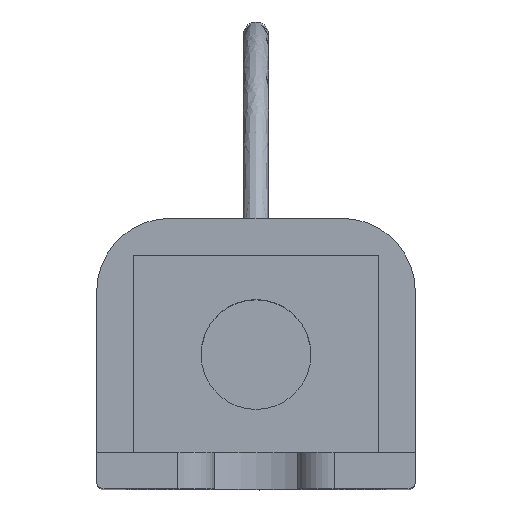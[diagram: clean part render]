
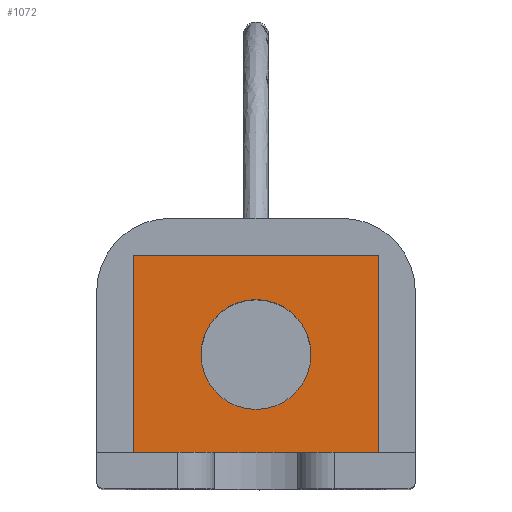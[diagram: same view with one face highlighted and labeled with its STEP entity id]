
A CAD part, top view. The second image highlights one B-rep face of the part: STEP entity #1072.
In plain terms, the highlighted planar face has unit normal (0, 0, 1).
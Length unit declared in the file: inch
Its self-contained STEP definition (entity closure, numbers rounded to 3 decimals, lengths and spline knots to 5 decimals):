
#47 = DIRECTION ( 'NONE',  ( 1., 0., 0. ) ) ;
#56 = ORIENTED_EDGE ( 'NONE', *, *, #1549, .T. ) ;
#137 = CARTESIAN_POINT ( 'NONE',  ( -0.375, 0.925, -4.65 ) ) ;
#219 = FACE_BOUND ( 'NONE', #2538, .T. ) ;
#310 = CARTESIAN_POINT ( 'NONE',  ( -0.8375, 1.6, -4.65 ) ) ;
#364 = AXIS2_PLACEMENT_3D ( 'NONE', #2158, #789, #1919 ) ;
#385 = VERTEX_POINT ( 'NONE', #310 ) ;
#556 = VERTEX_POINT ( 'NONE', #1586 ) ;
#789 = DIRECTION ( 'NONE',  ( 0., 0., -1. ) ) ;
#838 = CARTESIAN_POINT ( 'NONE',  ( 0., 0.925, -4.65 ) ) ;
#960 = VECTOR ( 'NONE', #3425, 39.37008 ) ;
#1033 = FACE_OUTER_BOUND ( 'NONE', #1688, .T. ) ;
#1064 = PLANE ( 'NONE',  #364 ) ;
#1072 = ADVANCED_FACE ( 'NONE', ( #219, #1033 ), #1064, .F. ) ;
#1102 = LINE ( 'NONE', #2228, #1712 ) ;
#1165 = ORIENTED_EDGE ( 'NONE', *, *, #3555, .T. ) ;
#1192 = CIRCLE ( 'NONE', #2979, 0.375 ) ;
#1252 = ORIENTED_EDGE ( 'NONE', *, *, #3165, .T. ) ;
#1316 = CARTESIAN_POINT ( 'NONE',  ( 0., 0.925, -4.65 ) ) ;
#1549 = EDGE_CURVE ( 'NONE', #1978, #556, #2641, .T. ) ;
#1586 = CARTESIAN_POINT ( 'NONE',  ( 0.8375, 1.6, -4.65 ) ) ;
#1634 = ORIENTED_EDGE ( 'NONE', *, *, #2266, .T. ) ;
#1663 = AXIS2_PLACEMENT_3D ( 'NONE', #838, #1964, #3120 ) ;
#1688 = EDGE_LOOP ( 'NONE', ( #1634, #1165, #56, #1756 ) ) ;
#1712 = VECTOR ( 'NONE', #1920, 39.37008 ) ;
#1756 = ORIENTED_EDGE ( 'NONE', *, *, #1968, .T. ) ;
#1831 = CARTESIAN_POINT ( 'NONE',  ( 0.8375, 0.25, -4.65 ) ) ;
#1919 = DIRECTION ( 'NONE',  ( -1., 0., 0. ) ) ;
#1920 = DIRECTION ( 'NONE',  ( 0., -1., 0. ) ) ;
#1959 = VERTEX_POINT ( 'NONE', #3191 ) ;
#1964 = DIRECTION ( 'NONE',  ( 0., 0., -1. ) ) ;
#1968 = EDGE_CURVE ( 'NONE', #556, #385, #2202, .T. ) ;
#1978 = VERTEX_POINT ( 'NONE', #1831 ) ;
#2129 = VERTEX_POINT ( 'NONE', #137 ) ;
#2158 = CARTESIAN_POINT ( 'NONE',  ( 0., 0., -4.65 ) ) ;
#2177 = DIRECTION ( 'NONE',  ( -1., 0., 0. ) ) ;
#2179 = VERTEX_POINT ( 'NONE', #3058 ) ;
#2202 = LINE ( 'NONE', #3342, #960 ) ;
#2228 = CARTESIAN_POINT ( 'NONE',  ( -0.8375, 0., -4.65 ) ) ;
#2266 = EDGE_CURVE ( 'NONE', #385, #2179, #1102, .T. ) ;
#2467 = DIRECTION ( 'NONE',  ( 0., 0., -1. ) ) ;
#2538 = EDGE_LOOP ( 'NONE', ( #3009, #1252 ) ) ;
#2577 = LINE ( 'NONE', #2815, #3575 ) ;
#2623 = DIRECTION ( 'NONE',  ( 0., 1., 0. ) ) ;
#2641 = LINE ( 'NONE', #2876, #2980 ) ;
#2815 = CARTESIAN_POINT ( 'NONE',  ( -1.0875, 0.25, -4.65 ) ) ;
#2876 = CARTESIAN_POINT ( 'NONE',  ( 0.8375, 0., -4.65 ) ) ;
#2979 = AXIS2_PLACEMENT_3D ( 'NONE', #1316, #2467, #2177 ) ;
#2980 = VECTOR ( 'NONE', #2623, 39.37008 ) ;
#3009 = ORIENTED_EDGE ( 'NONE', *, *, #3357, .T. ) ;
#3038 = CIRCLE ( 'NONE', #1663, 0.375 ) ;
#3058 = CARTESIAN_POINT ( 'NONE',  ( -0.8375, 0.25, -4.65 ) ) ;
#3120 = DIRECTION ( 'NONE',  ( -1., 0., 0. ) ) ;
#3165 = EDGE_CURVE ( 'NONE', #1959, #2129, #1192, .T. ) ;
#3191 = CARTESIAN_POINT ( 'NONE',  ( 0.375, 0.925, -4.65 ) ) ;
#3342 = CARTESIAN_POINT ( 'NONE',  ( -1.0875, 1.6, -4.65 ) ) ;
#3357 = EDGE_CURVE ( 'NONE', #2129, #1959, #3038, .T. ) ;
#3425 = DIRECTION ( 'NONE',  ( -1., 0., 0. ) ) ;
#3555 = EDGE_CURVE ( 'NONE', #2179, #1978, #2577, .T. ) ;
#3575 = VECTOR ( 'NONE', #47, 39.37008 ) ;
